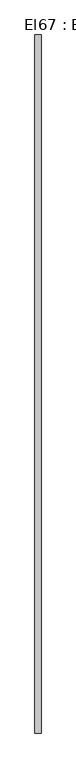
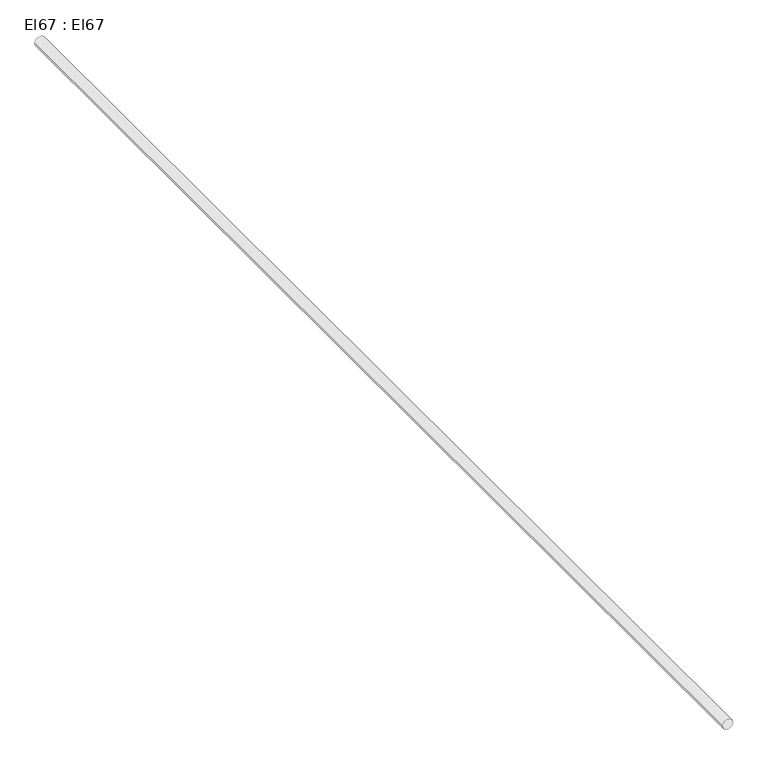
"""IFC4 building model written with IfcOpenShell, lengths in millimetres: cable carrier segment geometry, El67 : El67."""

import ifcopenshell
import ifcopenshell.guid

model = None  # the IFC model being written
_history = None  # IfcOwnerHistory: only IFC2X3 demands one
_inside = {}  # id of a spatial element -> (the spatial element, [elements in it])
_under = {}  # id of a project, library or spatial element -> (it, [spatial elements below it])
_declared = {}  # id of a project -> (the project, [libraries it declares])
_typed = {}  # id of a type object -> (the type object, [elements of that type])
_made_of = {}  # id of a material, layer set ... -> (it, [elements and type objects made of it])


def new_model(schema):
    """Start an empty IFC model of exactly this schema.

    Asked for "IFC4X3", IfcOpenShell would pick the latest addendum, in which some entities
    have other attributes; the version numbers below select the first issue.
    IFC2X3 requires an IfcOwnerHistory on every rooted entity: one is made here for all.
    """
    global model, _history
    if schema == "IFC4X3":
        model = ifcopenshell.file(schema_version=(4, 3, 0, 0))
    else:
        model = ifcopenshell.file(schema=schema)
    _inside.clear()
    _under.clear()
    _declared.clear()
    _typed.clear()
    _made_of.clear()
    _history = None
    if model.schema == "IFC2X3":
        org = make("IfcOrganization", Name="unknown")
        user = make(
            "IfcPersonAndOrganization",
            ThePerson=make("IfcPerson", FamilyName="unknown"),
            TheOrganization=org,
        )
        app = make(
            "IfcApplication",
            ApplicationDeveloper=org,
            Version="unknown",
            ApplicationFullName="unknown",
            ApplicationIdentifier="unknown",
        )
        _history = make(
            "IfcOwnerHistory",
            OwningUser=user,
            OwningApplication=app,
            ChangeAction="ADDED",
            CreationDate=0,
        )
    return model


def make(cls, **values):
    """One entity of the class cls with the attributes given. An attribute that is None is left unset."""
    return model.create_entity(
        cls, **{name: value for name, value in values.items() if value is not None}
    )


def rooted(cls, **values):
    """An entity with a GlobalId (a new one), such as an element, a storey or a relation."""
    return make(cls, GlobalId=ifcopenshell.guid.new(), OwnerHistory=_history, **values)


def si_unit(unit_type, name, prefix=None):
    """IfcSIUnit, for example si_unit("LENGTHUNIT", "METRE", prefix="MILLI")."""
    return make("IfcSIUnit", UnitType=unit_type, Prefix=prefix, Name=name)


def assignment(units):
    """IfcUnitAssignment: the units of a project."""
    return None if units is None else make("IfcUnitAssignment", Units=units)


def point(xyz):
    """IfcCartesianPoint."""
    return None if xyz is None else make("IfcCartesianPoint", Coordinates=xyz)


def direction(xyz):
    """IfcDirection."""
    return None if xyz is None else make("IfcDirection", DirectionRatios=xyz)


def frame(location, z_axis=None, x_axis=None):
    """IfcAxis2Placement3D, a coordinate frame: its origin and axes. An axis left out is left unset."""
    return make(
        "IfcAxis2Placement3D",
        Location=point(location),
        Axis=direction(z_axis),
        RefDirection=direction(x_axis),
    )


def frame_2d(location, x_axis=None):
    """IfcAxis2Placement2D, a coordinate frame in the plane: its origin and x axis."""
    return make(
        "IfcAxis2Placement2D", Location=point(location), RefDirection=direction(x_axis)
    )


def origin():
    """The frame at (0, 0, 0) with its axes left unset."""
    return frame((0.0, 0.0, 0.0))


def place(relative_to, where):
    """IfcLocalPlacement: puts the frame where relative to a parent placement (None: the world)."""
    return make(
        "IfcLocalPlacement", PlacementRelTo=relative_to, RelativePlacement=where
    )


def context(
    kind, dimensions, precision=None, world=None, true_north=None, identifier=None
):
    """IfcGeometricRepresentationContext, for example the 3D "Model" context."""
    return make(
        "IfcGeometricRepresentationContext",
        ContextIdentifier=identifier,
        ContextType=kind,
        CoordinateSpaceDimension=dimensions,
        Precision=precision,
        WorldCoordinateSystem=world,
        TrueNorth=true_north,
    )


def project(units=None, contexts=None):
    """IfcProject with its units and contexts."""
    return rooted(
        "IfcProject",
        Name="project",
        RepresentationContexts=contexts,
        UnitsInContext=assignment(units),
    )


def spatial(cls, under=None, at=None, **own):
    """A site, building, storey or space (cls), placed at a placement, below another one or the project."""
    s = rooted(cls, ObjectPlacement=at, **own)
    if under is not None:
        _under.setdefault(under.id(), (under, []))[1].append(s)
    return s


def circle_curve(where, radius):
    """IfcCircle in the frame where."""
    return make("IfcCircle", Position=where, Radius=radius)


def trimmed(basis, trim1, trim2, sense, master):
    """IfcTrimmedCurve: the piece of a basis curve between two trims."""
    return make(
        "IfcTrimmedCurve",
        BasisCurve=basis,
        Trim1=trim1,
        Trim2=trim2,
        SenseAgreement=sense,
        MasterRepresentation=master,
    )


def segment(curve, same_sense, transition):
    """IfcCompositeCurveSegment."""
    return make(
        "IfcCompositeCurveSegment",
        Transition=transition,
        SameSense=same_sense,
        ParentCurve=curve,
    )


def composite_curve(segments, self_intersect=None):
    """IfcCompositeCurve: segments joined end to end."""
    return make("IfcCompositeCurve", Segments=segments, SelfIntersect=self_intersect)


def outline(outer, holes=None, kind="AREA"):
    """IfcArbitraryClosedProfileDef: a profile drawn as a closed curve; with holes, ...WithVoids."""
    if holes is None:
        return make("IfcArbitraryClosedProfileDef", ProfileType=kind, OuterCurve=outer)
    return make(
        "IfcArbitraryProfileDefWithVoids",
        ProfileType=kind,
        OuterCurve=outer,
        InnerCurves=holes,
    )


def extrude(swept, where, along, depth):
    """IfcExtrudedAreaSolid: the profile swept, set in the frame where, extruded along a direction by depth."""
    return make(
        "IfcExtrudedAreaSolid",
        SweptArea=swept,
        Position=where,
        ExtrudedDirection=direction(along),
        Depth=depth,
    )


def shape(context_of_items, identifier, shape_type, items):
    """IfcShapeRepresentation: the items that make up one representation, for example the "Body"."""
    return make(
        "IfcShapeRepresentation",
        ContextOfItems=context_of_items,
        RepresentationIdentifier=identifier,
        RepresentationType=shape_type,
        Items=items,
    )


def source(mapping_origin, context_of_items, identifier, shape_type, items):
    """IfcRepresentationMap: a shape defined once, which mapped items show again and again."""
    return make(
        "IfcRepresentationMap",
        MappingOrigin=mapping_origin,
        MappedRepresentation=shape(context_of_items, identifier, shape_type, items),
    )


def transform(
    local_origin,
    x_axis=None,
    y_axis=None,
    z_axis=None,
    scale=None,
    scale2=None,
    scale3=None,
    uniform=True,
):
    """IfcCartesianTransformationOperator3D, or its non-uniform kind. x_axis, y_axis, z_axis: its Axis1, 2, 3."""
    if uniform:
        return make(
            "IfcCartesianTransformationOperator3D",
            Axis1=direction(x_axis),
            Axis2=direction(y_axis),
            LocalOrigin=point(local_origin),
            Scale=scale,
            Axis3=direction(z_axis),
        )
    return make(
        "IfcCartesianTransformationOperator3DnonUniform",
        Axis1=direction(x_axis),
        Axis2=direction(y_axis),
        LocalOrigin=point(local_origin),
        Scale=scale,
        Axis3=direction(z_axis),
        Scale2=scale2,
        Scale3=scale3,
    )


def mapped(mapping_source, mapping_target):
    """IfcMappedItem: shows the shape of a source again, moved by a transform."""
    return make(
        "IfcMappedItem", MappingSource=mapping_source, MappingTarget=mapping_target
    )


def made_of(thing, what):
    """Note that an element or type object is made of a material, layer set ...; save() writes the relation."""
    if what is not None:
        _made_of.setdefault(what.id(), (what, []))[1].append(thing)
    return thing


def element(
    cls,
    number,
    at=None,
    inside=None,
    cuts=None,
    type_object=None,
    material=None,
    context=None,
    identifier="Body",
    shape_type=None,
    held_by="IfcProductDefinitionShape",
    body=None,
    shapes=None,
    **own,
):
    """One element of the class cls, such as IfcWall. Its Tag is "e" and its number.

    at: its placement. inside: the storey or other place that contains it. cuts: it is an
    opening in that element (IfcRelVoidsElement). A single representation is given by context,
    identifier, shape_type and body (its items); several are given by shapes. held_by: the class
    of the entity that holds the representations. save() writes the other relations.
    """
    e = rooted(cls, Tag="e%d" % number, ObjectPlacement=at, **own)
    if body is not None:
        shapes = [shape(context, identifier, shape_type, body)]
    if shapes is not None:
        e.Representation = make(held_by, Representations=shapes)
    if inside is not None:
        _inside.setdefault(inside.id(), (inside, []))[1].append(e)
    if cuts is not None:
        rooted(
            "IfcRelVoidsElement", RelatingBuildingElement=cuts, RelatedOpeningElement=e
        )
    if type_object is not None:
        _typed.setdefault(type_object.id(), (type_object, []))[1].append(e)
    return made_of(e, material)


def aggregate(whole, parts):
    """IfcRelAggregates: a whole, such as a stair, and the parts it consists of."""
    return rooted("IfcRelAggregates", RelatingObject=whole, RelatedObjects=parts)


def save(model, path):
    """Write the relations noted so far, then the file.

    IfcRelAggregates (storeys below a building ...), IfcRelContainedInSpatialStructure (elements
    in a storey), IfcRelDefinesByType, IfcRelAssociatesMaterial and IfcRelDeclares: one each for
    every whole, place, type object, material and project.
    """
    for whole, parts in _under.values():
        aggregate(whole, parts)
    for where, things in _inside.values():
        rooted(
            "IfcRelContainedInSpatialStructure",
            RelatedElements=things,
            RelatingStructure=where,
        )
    for kind, things in _typed.values():
        rooted("IfcRelDefinesByType", RelatedObjects=things, RelatingType=kind)
    for what, things in _made_of.values():
        rooted("IfcRelAssociatesMaterial", RelatedObjects=things, RelatingMaterial=what)
    for by, libraries in _declared.values():
        rooted("IfcRelDeclares", RelatingContext=by, RelatedDefinitions=libraries)
    model.write(path)


def el67_el67_db326473(model_context):
    return source(origin(), model_context, "Body", "SweptSolid", [
        extrude(outline(composite_curve([segment(trimmed(circle_curve(frame_2d((2950.0, 19785.0)), 9.5), [point((2950.0, 19775.5))], [point((2950.0, 19794.5))], False, "CARTESIAN"), True, "CONTINUOUS"), segment(trimmed(circle_curve(frame_2d((2950.0, 19785.0)), 9.5), [point((2950.0, 19794.5))], [point((2950.0, 19775.5))], False, "CARTESIAN"), True, "CONTINUOUS")], self_intersect=False)), frame((0.0, 16538.8, 0.0), z_axis=(0.0, 1.0, 0.0), x_axis=(0.0, 0.0, 1.0)), (0.0, 0.0, 1.0), 2155.0),
    ])


if __name__ == "__main__":
    model = new_model("IFC4")
    model_context = context("Model", 3, world=origin())
    ifc_project = project(units=[si_unit("LENGTHUNIT", "METRE", prefix="MILLI")], contexts=[model_context])
    site = spatial("IfcSite", under=ifc_project)
    building = spatial("IfcBuilding", under=site)
    placement = place(None, origin())
    el67_el67_shape = el67_el67_db326473(model_context)
    element("IfcCableCarrierSegment", 1, ObjectType="El67 : El67", at=placement, inside=building, context=model_context, shape_type="MappedRepresentation", body=[
        mapped(el67_el67_shape, transform((0.0, 0.0, 0.0), x_axis=(1.0, 0.0, 0.0), y_axis=(0.0, 1.0, 0.0), z_axis=(0.0, 0.0, 1.0))),
    ])
    save(model, "model.ifc")
